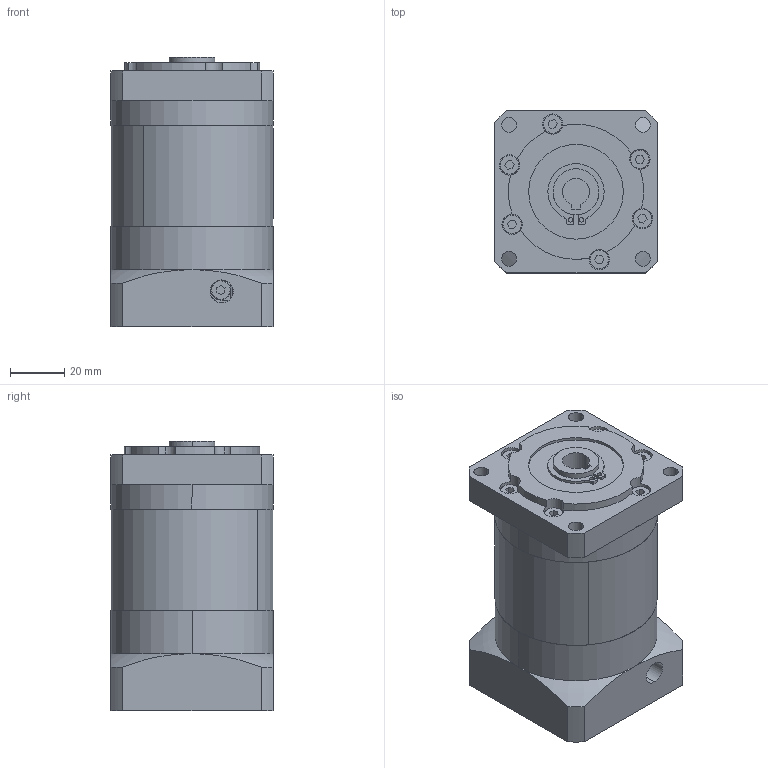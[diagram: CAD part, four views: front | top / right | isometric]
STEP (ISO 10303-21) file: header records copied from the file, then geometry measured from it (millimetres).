
FILE_DESCRIPTION (( 'STEP AP203' ), '1' );
FILE_NAME ('PBF060-L2-14-50-70.STEP', '2022-07-21T08:54:20', ( 'Windows User' ), ( 'P R C' ), 'SwSTEP 2.0', 'SolidWorks 2016', '' );
FILE_SCHEMA (( 'CONFIG_CONTROL_DESIGN' ));
Length unit declared in the file: millimetre
Products named in the file (7): PBF060 內齿圈_二级内齿圈; PBF060 上蓋版-孔10输出标准; PBF060 狟屳唳 梓袧; PBF060-窣諉啣梓袧_1; GB／T276-94深沟球轴承61905-2RZ; PBF060-L2-14-50-70; 囀鞠褒蹟佪-M4℅12
Assembly tree (6 placements, depth 2):
  PBF060-L2-14-50-70
    囀鞠褒蹟佪-M4℅12
    PBF060 內齿圈_二级内齿圈
    PBF060 上蓋版-孔10输出标准
    PBF060 狟屳唳 梓袧
    PBF060-窣諉啣梓袧_1
    GB／T276-94深沟球轴承61905-2RZ
Bounding box: 60 x 60 x 99.5 mm (x, y, z)
Volume: 259045 mm3; surface area: 68876.5 mm2
Topology: 6 solids, 6 shells, 1042 faces, 2879 edges, 1901 vertices
Faces by surface type: plane 544, cylinder 179, bspline 144, sphere 91, torus 70, cone 14
Entity records: 42611 total; most frequent: CARTESIAN_POINT 16449, ORIENTED_EDGE 5664, DIRECTION 4742, EDGE_CURVE 2832, VERTEX_POINT 1875, AXIS2_PLACEMENT_3D 1685, LINE 1372, VECTOR 1372
